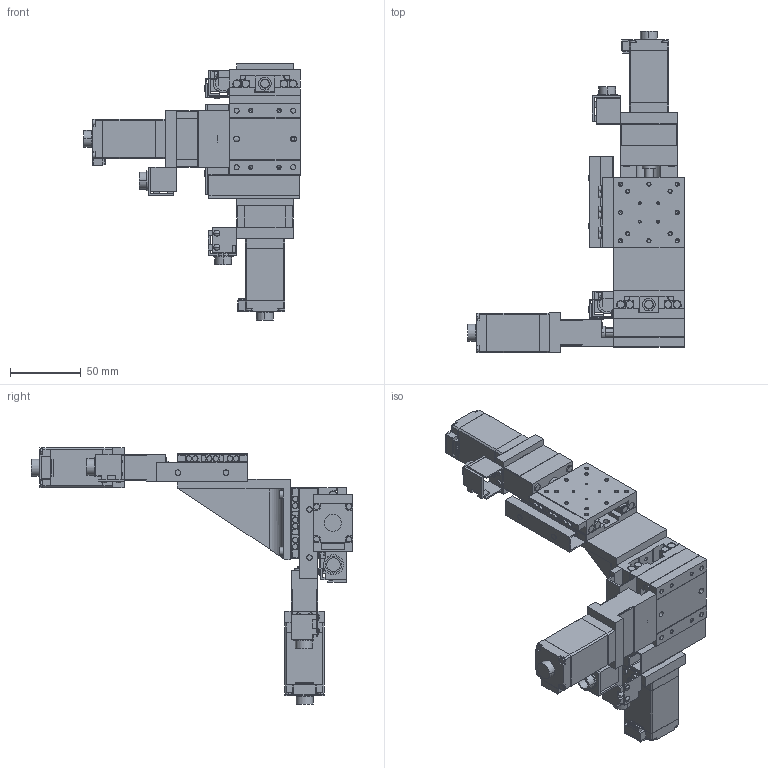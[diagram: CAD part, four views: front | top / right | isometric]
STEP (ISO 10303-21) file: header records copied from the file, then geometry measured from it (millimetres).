
FILE_DESCRIPTION(('STEP AP203'),'1');
FILE_NAME('C:/3D-Trans/3D_PMZG513M-L□-D+240129.step','2024-03-14T04:49:56',(' '),(' '),'Spatial InterOp 3D',' ',' ');
FILE_SCHEMA(('CONFIG_CONTROL_DESIGN'));
Length unit declared in the file: millimetre
Products named in the file (19): 1; 2; 3; 4; 5; 6; 7; 8; 9; 10; 11; 12; 13; 14; 15; 16; 17; 18; 19
Bounding box: 153 x 227 x 181 mm (x, y, z)
Volume: 392878.8 mm3; surface area: 163086.3 mm2
Topology: 19 solids, 19 shells, 2114 faces, 5440 edges, 3444 vertices
Faces by surface type: plane 1214, cylinder 652, cone 236, sphere 12
Entity records: 64702 total; most frequent: DIRECTION 11348, CARTESIAN_POINT 11041, ORIENTED_EDGE 10736, EDGE_CURVE 5368, AXIS2_PLACEMENT_3D 3871, LINE 3606, VECTOR 3606, VERTEX_POINT 3444
